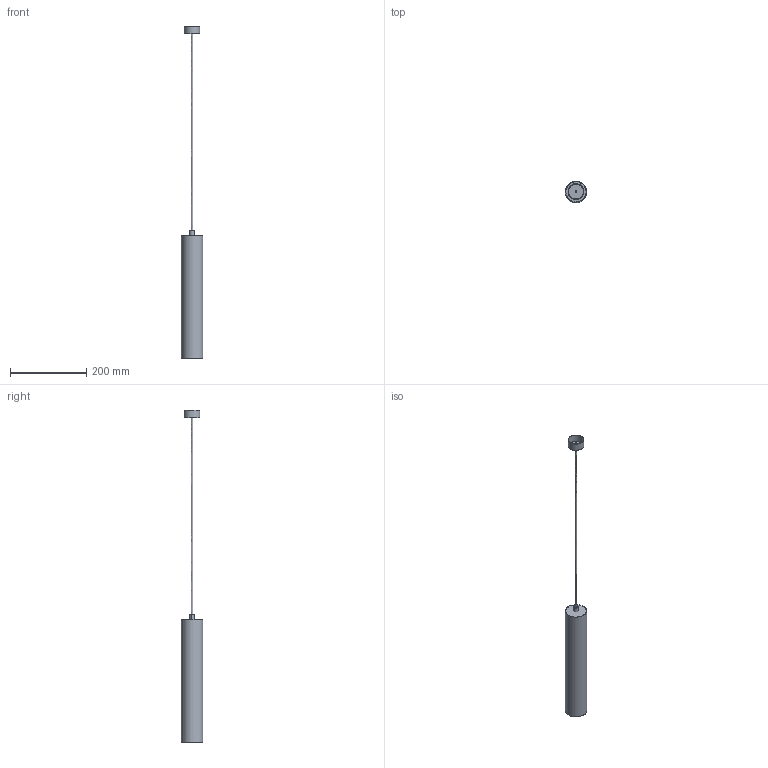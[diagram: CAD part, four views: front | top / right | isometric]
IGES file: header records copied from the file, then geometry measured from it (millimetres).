
Global section: file name: C:\Users\EQUIPO\Desktop\COLECCIONES ACB MODELADAS 3D OK\ZOOM\zoom-3764-colgante (IGES).igs; native system: Rhinoceros ( Oct  8 2013 ); preprocessor: Trout Lake IGES 012 Oct  8 2013; date: 190207.092655; units: millimetre
Bounding box: 55.98 x 55.99 x 868.88 mm (x, y, z)
Surface area: 147791.6 mm2 (no closed solid volume)
Topology: 0 solids, 0 shells, 47 faces, 256 edges, 242 vertices
Faces by surface type: bspline 47
